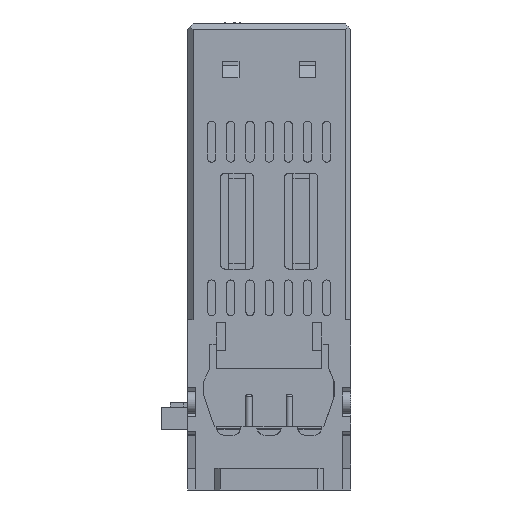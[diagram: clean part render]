
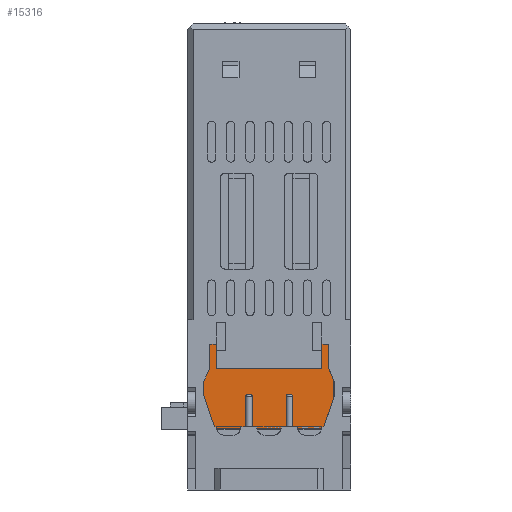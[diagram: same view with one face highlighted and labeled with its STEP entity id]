
A CAD part, front view. The second image highlights one B-rep face of the part: STEP entity #15316.
In plain terms, the highlighted planar face has unit normal (0, -1, 0).
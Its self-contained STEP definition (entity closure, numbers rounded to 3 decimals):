
#1445 = AXIS2_PLACEMENT_3D ( 'NONE', #54510, #34584, #6954 ) ;
#1479 = EDGE_CURVE ( 'NONE', #53639, #29897, #4350, .T. ) ;
#3595 = LINE ( 'NONE', #28119, #13734 ) ;
#4350 = LINE ( 'NONE', #46079, #52752 ) ;
#6954 = DIRECTION ( 'NONE',  ( 0., 0., -1. ) ) ;
#11568 = ORIENTED_EDGE ( 'NONE', *, *, #39908, .F. ) ;
#12944 = DIRECTION ( 'NONE',  ( 0., 0., -1. ) ) ;
#13734 = VECTOR ( 'NONE', #55758, 1000. ) ;
#14767 = CARTESIAN_POINT ( 'NONE',  ( -31.628, 2., -73.843 ) ) ;
#15316 = ADVANCED_FACE ( 'NONE', ( #53904 ), #35787, .T. ) ;
#16914 = CARTESIAN_POINT ( 'NONE',  ( 2.7, 2., -73.843 ) ) ;
#17370 = VERTEX_POINT ( 'NONE', #16914 ) ;
#17411 = ORIENTED_EDGE ( 'NONE', *, *, #1479, .F. ) ;
#19377 = LINE ( 'NONE', #14767, #42948 ) ;
#21100 = EDGE_LOOP ( 'NONE', ( #11568, #30886, #52934, #17411 ) ) ;
#23344 = CARTESIAN_POINT ( 'NONE',  ( 2.7, 2., -57.993 ) ) ;
#25254 = EDGE_CURVE ( 'NONE', #39855, #17370, #40858, .T. ) ;
#28119 = CARTESIAN_POINT ( 'NONE',  ( -31.628, 2., -57.993 ) ) ;
#28526 = CARTESIAN_POINT ( 'NONE',  ( 26.7, 2., -57.993 ) ) ;
#29897 = VERTEX_POINT ( 'NONE', #45844 ) ;
#30886 = ORIENTED_EDGE ( 'NONE', *, *, #25254, .T. ) ;
#32497 = VECTOR ( 'NONE', #12944, 1000. ) ;
#33501 = DIRECTION ( 'NONE',  ( 1., 0., 0. ) ) ;
#34584 = DIRECTION ( 'NONE',  ( 0., -1., 0. ) ) ;
#35787 = PLANE ( 'NONE',  #1445 ) ;
#39855 = VERTEX_POINT ( 'NONE', #57934 ) ;
#39908 = EDGE_CURVE ( 'NONE', #39855, #53639, #3595, .T. ) ;
#40852 = EDGE_CURVE ( 'NONE', #17370, #29897, #19377, .T. ) ;
#40858 = LINE ( 'NONE', #23344, #32497 ) ;
#42948 = VECTOR ( 'NONE', #33501, 1000. ) ;
#44940 = DIRECTION ( 'NONE',  ( 0., 0., -1. ) ) ;
#45844 = CARTESIAN_POINT ( 'NONE',  ( 26.7, 2., -73.843 ) ) ;
#46079 = CARTESIAN_POINT ( 'NONE',  ( 26.7, 2., -57.993 ) ) ;
#52752 = VECTOR ( 'NONE', #44940, 1000. ) ;
#52934 = ORIENTED_EDGE ( 'NONE', *, *, #40852, .T. ) ;
#53639 = VERTEX_POINT ( 'NONE', #28526 ) ;
#53904 = FACE_OUTER_BOUND ( 'NONE', #21100, .T. ) ;
#54510 = CARTESIAN_POINT ( 'NONE',  ( -31.628, 2., -57.993 ) ) ;
#55758 = DIRECTION ( 'NONE',  ( 1., 0., 0. ) ) ;
#57934 = CARTESIAN_POINT ( 'NONE',  ( 2.7, 2., -57.993 ) ) ;
